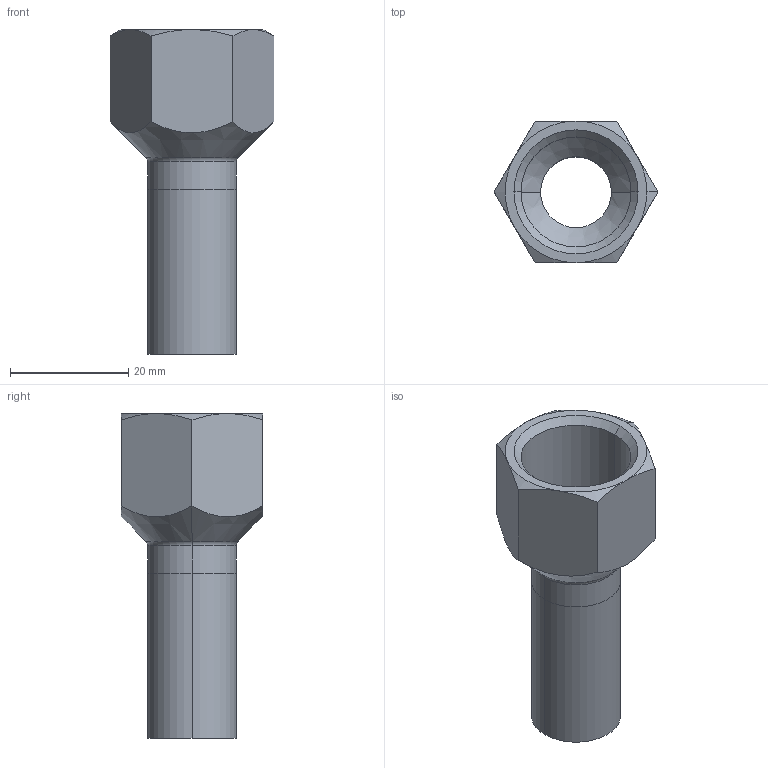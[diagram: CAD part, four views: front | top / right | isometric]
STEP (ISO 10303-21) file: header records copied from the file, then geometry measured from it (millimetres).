
FILE_DESCRIPTION (( 'STEP AP203' ), '1' );
FILE_NAME ('GDA6381.STEP', '2019-07-03T06:51:23', ( '' ), ( '' ), 'SwSTEP 2.0', 'SolidWorks 2015', '' );
FILE_SCHEMA (( 'CONFIG_CONTROL_DESIGN' ));
Length unit declared in the file: millimetre
Products named in the file (3): 28; OD15｡ﾁ0.5; GDA6381
Assembly tree (2 placements, depth 2):
  GDA6381
    28
    OD15｡ﾁ0.5
Bounding box: 27.71 x 24 x 55 mm (x, y, z)
Volume: 6605.9 mm3; surface area: 6302.3 mm2
Topology: 2 solids, 2 shells, 35 faces, 74 edges, 43 vertices
Faces by surface type: cone 13, cylinder 10, plane 10, torus 2
Entity records: 1360 total; most frequent: CARTESIAN_POINT 311, DIRECTION 169, ORIENTED_EDGE 148, EDGE_CURVE 74, AXIS2_PLACEMENT_3D 73, VERTEX_POINT 43, EDGE_LOOP 39, FACE_OUTER_BOUND 35
